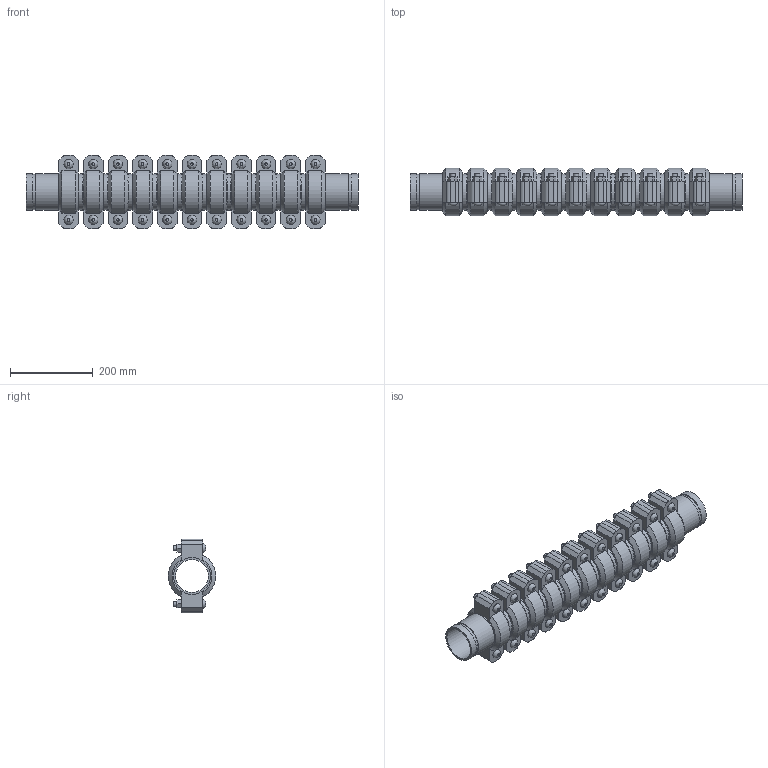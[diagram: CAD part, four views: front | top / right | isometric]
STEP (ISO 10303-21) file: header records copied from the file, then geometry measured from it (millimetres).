
FILE_DESCRIPTION(/* description */ ('VIC SS EXPANSION JOINT 11COUPLINGS NEUTRAL STYLE 155P (OGS) (POTABLE WATER) ','CAx-IF Rec.Pracs.---Representation and Presentation of Product Manufacturing Information (PMI)---4.0---2014-10-13'),/* implementation_level */ '2;1');
FILE_NAME(/* name */ 'C:\Users\kkamble\AppData\Roaming\Autodesk\ApplicationPlugins\Victaulic.Temp\A19\Victaulic_SS_Expansion Joint_Neutral_11 Couplings_Style 155P (OGS)-Potable Water_11 Coup_Neut_3 (80).stp',/* time_stamp */ '2021-07-16T16:28:28+06:00',/* author */ ('kkamble'),/* organization */ ('Victaulic'),/* preprocessor_version */ 'ST-DEVELOPER v17.2',/* originating_system */ 'Autodesk Inventor 2019',/* authorisation */ '');
FILE_SCHEMA (('AP242_MANAGED_MODEL_BASED_3D_ENGINEERING_MIM_LF { 1 0 10303 442 1 1 4 }'));
Length unit declared in the file: inch
Products named in the file (4): 155P-03.0; Nipple-03.0; Nipple-03.0_1; 075-03.0
Assembly tree (23 placements, depth 2):
  155P-03.0
    Nipple-03.0  x2
    Nipple-03.0_1  x10
    075-03.0  x11
Bounding box: 801.12 x 113.88 x 177.8 mm (x, y, z)
Volume: 4543258.7 mm3; surface area: 1134600.6 mm2
Topology: 23 solids, 45 shells, 771 faces, 1823 edges, 1278 vertices
Faces by surface type: plane 468, cylinder 237, cone 44, bspline 22
Full cylindrical faces by diameter (mm): 12.7 x44, 14.605 x22, 79.35 x12, 82.55 x11, 84.938 x24, 88.9 x58
Entity records: 2897 total; most frequent: CARTESIAN_POINT 507, DIRECTION 489, ORIENTED_EDGE 386, AXIS2_PLACEMENT_3D 198, EDGE_CURVE 193, VERTEX_POINT 138, EDGE_LOOP 107, LINE 93
